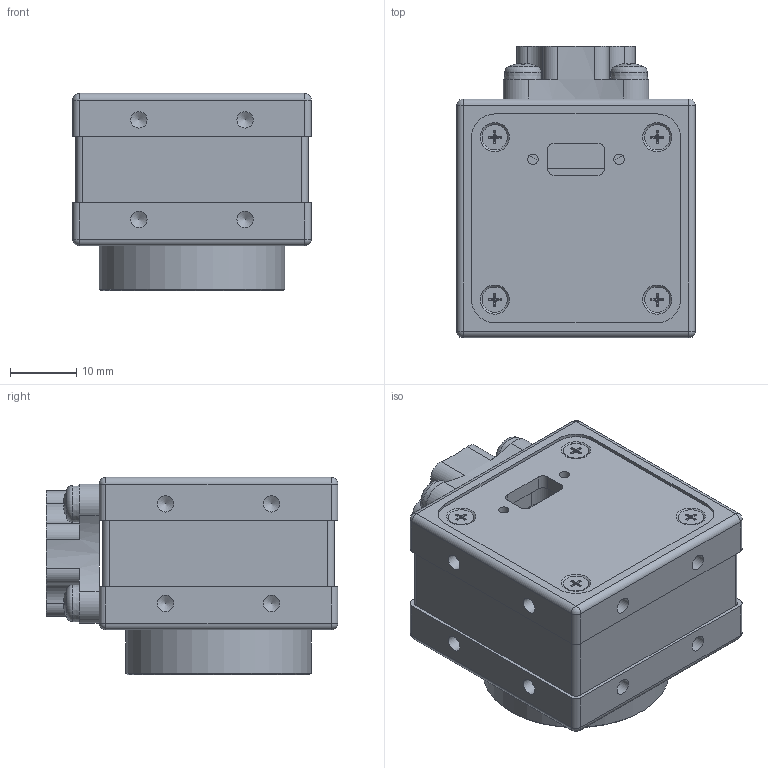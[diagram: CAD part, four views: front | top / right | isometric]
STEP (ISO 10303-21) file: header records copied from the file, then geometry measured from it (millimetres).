
FILE_DESCRIPTION(/* description */ (''),/* implementation_level */ '2;1');
FILE_NAME(/* name */ 'D:\HiDrive\1_Konstruktion\1_KUNDEN\TIS\154-13_MC36-Camera (Opto Precision)\154-13-9-00-00_MC36-AR CMOS_USB-Mini\KSM\154-13-92\KSM_154-13-92_(MC36_USB-Mini_C-FP_18,3_ER-11,7).stp',/* time_stamp */ '2024-03-03T08:36:55+01:00',/* author */ ('khw'),/* organization */ ('TIS, Germany'),/* preprocessor_version */ 'ST-DEVELOPER v18.1',/* originating_system */ 'Autodesk Inventor 2021',/* authorisation */ '520025 mm^3');
FILE_SCHEMA (('AUTOMOTIVE_DESIGN { 1 0 10303 214 3 1 1 }'));
Length unit declared in the file: millimetre
Products named in the file (4): 3_Redu_154-13-92_(MC36_USB-Mini_C-FP_18,3_ER-11,7); 2_Redu_154-13-92_(MC36_USB-Mini_C-FP_18,3_ER-11,7); 154-13-1-00-03_Tripod Adapter; ISO 7045 - M3 x 6 - 4.8 - H
Assembly tree (6 placements, depth 2):
  3_Redu_154-13-92_(MC36_USB-Mini_C-FP_18,3_ER-11,7)
    2_Redu_154-13-92_(MC36_USB-Mini_C-FP_18,3_ER-11,7)
    154-13-1-00-03_Tripod Adapter
    ISO 7045 - M3 x 6 - 4.8 - H  x4
Bounding box: 36 x 44 x 29.75 mm (x, y, z)
Volume: 18023.7 mm3; surface area: 16818.1 mm2
Topology: 6 solids, 7 shells, 553 faces, 1435 edges, 925 vertices
Faces by surface type: plane 211, cylinder 154, cone 134, torus 42, sphere 12
Full cylindrical faces by diameter (mm): 1 x1, 1.567 x6, 1.755 x4, 2 x4, 2.3 x4, 2.459 x16, 2.729 x4, 3 x4, 3.4 x4, 3.8 x4, 4 x4, 4.917 x1, 4.978 x1, 5 x2, 20.2 x1, 21.9 x1, 22 x2, 24.536 x1, 25.8 x1, 26 x1, 27 x2, 28 x2, 28.05 x1, 28.5 x1
Entity records: 15071 total; most frequent: CARTESIAN_POINT 3076, DIRECTION 2470, ORIENTED_EDGE 2318, EDGE_CURVE 1159, AXIS2_PLACEMENT_3D 949, VERTEX_POINT 763, LINE 572, VECTOR 572
